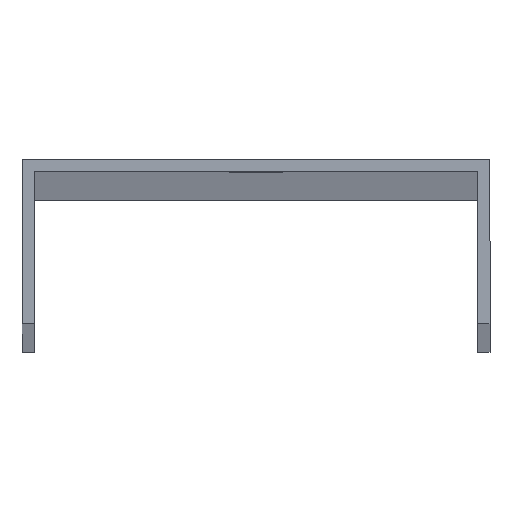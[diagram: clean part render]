
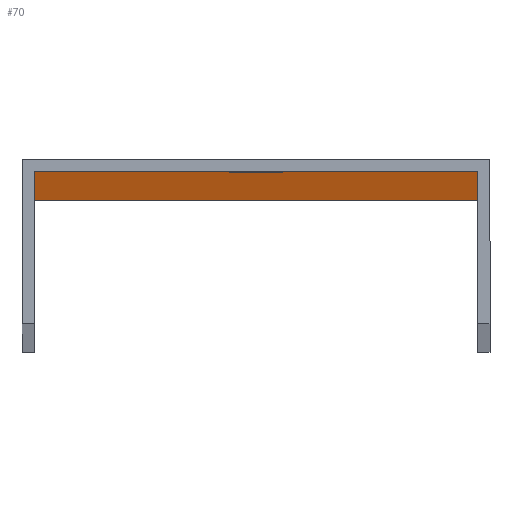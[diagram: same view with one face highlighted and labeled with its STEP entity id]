
A CAD part, top view. The second image highlights one B-rep face of the part: STEP entity #70.
In plain terms, the highlighted planar face has unit normal (0, -1, 0).
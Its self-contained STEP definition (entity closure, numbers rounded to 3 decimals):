
#8 = LINE ( 'NONE', #561, #160 ) ;
#12 = VERTEX_POINT ( 'NONE', #75 ) ;
#29 = VERTEX_POINT ( 'NONE', #36 ) ;
#34 = ORIENTED_EDGE ( 'NONE', *, *, #255, .T. ) ;
#36 = CARTESIAN_POINT ( 'NONE',  ( -3.25, -1.5, -979. ) ) ;
#37 = VECTOR ( 'NONE', #163, 1000. ) ;
#44 = VECTOR ( 'NONE', #68, 1000. ) ;
#46 = VERTEX_POINT ( 'NONE', #458 ) ;
#54 = ORIENTED_EDGE ( 'NONE', *, *, #126, .T. ) ;
#56 = AXIS2_PLACEMENT_3D ( 'NONE', #146, #140, #143 ) ;
#68 = DIRECTION ( 'NONE',  ( 0., 0., -1. ) ) ;
#70 = ADVANCED_FACE ( 'NONE', ( #89, #136, #548 ), #551, .T. ) ;
#72 = CARTESIAN_POINT ( 'NONE',  ( -28.5, -1.5, 1000. ) ) ;
#74 = CARTESIAN_POINT ( 'NONE',  ( -3.25, -1.5, 988. ) ) ;
#75 = CARTESIAN_POINT ( 'NONE',  ( -3.25, -1.5, -988. ) ) ;
#80 = VECTOR ( 'NONE', #437, 1000. ) ;
#85 = LINE ( 'NONE', #540, #37 ) ;
#89 = FACE_BOUND ( 'NONE', #149, .T. ) ;
#102 = DIRECTION ( 'NONE',  ( -1., 0., 0. ) ) ;
#104 = ORIENTED_EDGE ( 'NONE', *, *, #481, .T. ) ;
#106 = DIRECTION ( 'NONE',  ( 0., 0., -1. ) ) ;
#113 = DIRECTION ( 'NONE',  ( 0., 0., 1. ) ) ;
#114 = ORIENTED_EDGE ( 'NONE', *, *, #119, .F. ) ;
#118 = VERTEX_POINT ( 'NONE', #513 ) ;
#119 = EDGE_CURVE ( 'NONE', #250, #46, #245, .T. ) ;
#122 = VECTOR ( 'NONE', #178, 1000. ) ;
#126 = EDGE_CURVE ( 'NONE', #316, #12, #212, .T. ) ;
#136 = FACE_OUTER_BOUND ( 'NONE', #185, .T. ) ;
#138 = LINE ( 'NONE', #462, #473 ) ;
#140 = DIRECTION ( 'NONE',  ( 0., -1., 0. ) ) ;
#143 = DIRECTION ( 'NONE',  ( 0., 0., -1. ) ) ;
#146 = CARTESIAN_POINT ( 'NONE',  ( -28.5, -1.5, 1000. ) ) ;
#149 = EDGE_LOOP ( 'NONE', ( #114, #582, #580, #164 ) ) ;
#155 = CARTESIAN_POINT ( 'NONE',  ( -27., -1.5, -1000. ) ) ;
#160 = VECTOR ( 'NONE', #385, 1000. ) ;
#163 = DIRECTION ( 'NONE',  ( 0., 0., -1. ) ) ;
#164 = ORIENTED_EDGE ( 'NONE', *, *, #214, .F. ) ;
#169 = CARTESIAN_POINT ( 'NONE',  ( -27., -1.5, 1000. ) ) ;
#178 = DIRECTION ( 'NONE',  ( 0., 0., -1. ) ) ;
#185 = EDGE_LOOP ( 'NONE', ( #290, #461, #104, #288 ) ) ;
#201 = VECTOR ( 'NONE', #471, 1000. ) ;
#208 = CARTESIAN_POINT ( 'NONE',  ( -28.5, -1.5, -988. ) ) ;
#209 = LINE ( 'NONE', #223, #122 ) ;
#212 = LINE ( 'NONE', #208, #201 ) ;
#214 = EDGE_CURVE ( 'NONE', #46, #118, #263, .T. ) ;
#223 = CARTESIAN_POINT ( 'NONE',  ( 27., -1.5, 1000. ) ) ;
#230 = EDGE_CURVE ( 'NONE', #29, #362, #8, .T. ) ;
#238 = VERTEX_POINT ( 'NONE', #522 ) ;
#239 = EDGE_CURVE ( 'NONE', #238, #250, #266, .T. ) ;
#245 = LINE ( 'NONE', #475, #460 ) ;
#250 = VERTEX_POINT ( 'NONE', #74 ) ;
#255 = EDGE_CURVE ( 'NONE', #362, #316, #85, .T. ) ;
#263 = LINE ( 'NONE', #378, #80 ) ;
#264 = CARTESIAN_POINT ( 'NONE',  ( 27., -1.5, 1000. ) ) ;
#266 = LINE ( 'NONE', #432, #403 ) ;
#272 = EDGE_CURVE ( 'NONE', #274, #281, #209, .T. ) ;
#273 = CARTESIAN_POINT ( 'NONE',  ( 27., -1.5, -1000. ) ) ;
#274 = VERTEX_POINT ( 'NONE', #264 ) ;
#279 = CARTESIAN_POINT ( 'NONE',  ( 3.25, -1.5, -979. ) ) ;
#281 = VERTEX_POINT ( 'NONE', #273 ) ;
#282 = LINE ( 'NONE', #319, #397 ) ;
#284 = EDGE_CURVE ( 'NONE', #12, #29, #351, .T. ) ;
#288 = ORIENTED_EDGE ( 'NONE', *, *, #579, .T. ) ;
#290 = ORIENTED_EDGE ( 'NONE', *, *, #331, .F. ) ;
#291 = CARTESIAN_POINT ( 'NONE',  ( -27., -1.5, 1000. ) ) ;
#295 = ORIENTED_EDGE ( 'NONE', *, *, #230, .T. ) ;
#314 = EDGE_LOOP ( 'NONE', ( #54, #352, #295, #34 ) ) ;
#316 = VERTEX_POINT ( 'NONE', #567 ) ;
#319 = CARTESIAN_POINT ( 'NONE',  ( -28.5, -1.5, -1000. ) ) ;
#331 = EDGE_CURVE ( 'NONE', #281, #447, #282, .T. ) ;
#339 = EDGE_CURVE ( 'NONE', #118, #238, #138, .T. ) ;
#351 = LINE ( 'NONE', #571, #452 ) ;
#352 = ORIENTED_EDGE ( 'NONE', *, *, #284, .T. ) ;
#362 = VERTEX_POINT ( 'NONE', #279 ) ;
#378 = CARTESIAN_POINT ( 'NONE',  ( -28.5, -1.5, 979. ) ) ;
#385 = DIRECTION ( 'NONE',  ( 1., 0., 0. ) ) ;
#397 = VECTOR ( 'NONE', #408, 1000. ) ;
#403 = VECTOR ( 'NONE', #487, 1000. ) ;
#408 = DIRECTION ( 'NONE',  ( -1., 0., 0. ) ) ;
#432 = CARTESIAN_POINT ( 'NONE',  ( -28.5, -1.5, 988. ) ) ;
#437 = DIRECTION ( 'NONE',  ( 1., 0., 0. ) ) ;
#447 = VERTEX_POINT ( 'NONE', #155 ) ;
#452 = VECTOR ( 'NONE', #113, 1000. ) ;
#458 = CARTESIAN_POINT ( 'NONE',  ( -3.25, -1.5, 979. ) ) ;
#460 = VECTOR ( 'NONE', #106, 1000. ) ;
#461 = ORIENTED_EDGE ( 'NONE', *, *, #272, .F. ) ;
#462 = CARTESIAN_POINT ( 'NONE',  ( 3.25, -1.5, 1000. ) ) ;
#471 = DIRECTION ( 'NONE',  ( -1., 0., 0. ) ) ;
#473 = VECTOR ( 'NONE', #497, 1000. ) ;
#475 = CARTESIAN_POINT ( 'NONE',  ( -3.25, -1.5, 1000. ) ) ;
#481 = EDGE_CURVE ( 'NONE', #274, #591, #482, .T. ) ;
#482 = LINE ( 'NONE', #72, #564 ) ;
#487 = DIRECTION ( 'NONE',  ( -1., 0., 0. ) ) ;
#497 = DIRECTION ( 'NONE',  ( 0., 0., 1. ) ) ;
#513 = CARTESIAN_POINT ( 'NONE',  ( 3.25, -1.5, 979. ) ) ;
#522 = CARTESIAN_POINT ( 'NONE',  ( 3.25, -1.5, 988. ) ) ;
#540 = CARTESIAN_POINT ( 'NONE',  ( 3.25, -1.5, 1000. ) ) ;
#548 = FACE_BOUND ( 'NONE', #314, .T. ) ;
#551 = PLANE ( 'NONE',  #56 ) ;
#561 = CARTESIAN_POINT ( 'NONE',  ( -28.5, -1.5, -979. ) ) ;
#564 = VECTOR ( 'NONE', #102, 1000. ) ;
#565 = LINE ( 'NONE', #291, #44 ) ;
#567 = CARTESIAN_POINT ( 'NONE',  ( 3.25, -1.5, -988. ) ) ;
#571 = CARTESIAN_POINT ( 'NONE',  ( -3.25, -1.5, 1000. ) ) ;
#579 = EDGE_CURVE ( 'NONE', #591, #447, #565, .T. ) ;
#580 = ORIENTED_EDGE ( 'NONE', *, *, #339, .F. ) ;
#582 = ORIENTED_EDGE ( 'NONE', *, *, #239, .F. ) ;
#591 = VERTEX_POINT ( 'NONE', #169 ) ;
